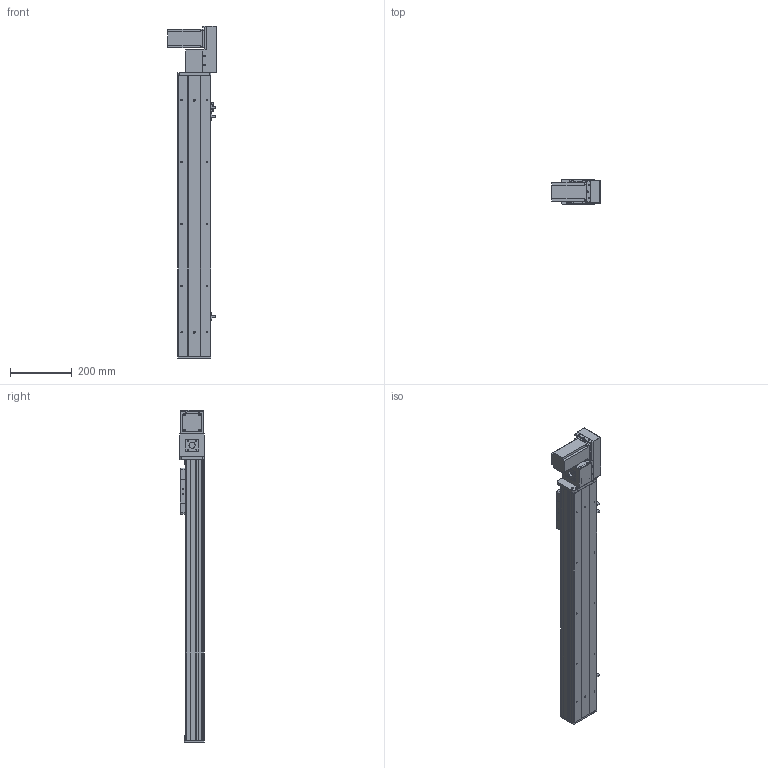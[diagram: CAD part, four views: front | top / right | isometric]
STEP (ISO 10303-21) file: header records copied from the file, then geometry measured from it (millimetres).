
FILE_DESCRIPTION (( 'STEP AP203' ), '1' );
FILE_NAME ('Y10CB-D90-S650-BR-P400W.STEP', '2020-02-16T01:40:54', ( '微软用户' ), ( '微软中国' ), 'SwSTEP 2.0', 'SolidWorks 2017', '' );
FILE_SCHEMA (( 'CONFIG_CONTROL_DESIGN' ));
Length unit declared in the file: millimetre
Products named in the file (18): Y10CB-D90-S650-BR-P400W; 10CB-詩湍-; 0Cb-俋欶---; Y10CB- 掛极耜裔啣-毀---; Y10B-々湍喘謫眊楊擘啣--; Y10C---詩湍揤啣; Y10B-耜蚾蟀諉啣----; 10CB9-掛极; 0B-萇儂楊擘啣; 10CB-耜裔; san松下电机400不带刹车----; Y135C-陔俋离換覜結え-; 0B-源倛裔啣; Y100-135俋离換覜ん--; 0B-埴倛裔啣; Y10B--々湍喘謫眊--666; Y俋欶BR----; 0CB-雄赽釱---
Assembly tree (21 placements, depth 2):
  Y10CB-D90-S650-BR-P400W
    0CB-雄赽釱---
    0Cb-俋欶---
    Y10B-々湍喘謫眊楊擘啣--
    Y10B-耜蚾蟀諉啣----
    0B-萇儂楊擘啣
    san松下电机400不带刹车----
    0B-源倛裔啣
    0B-埴倛裔啣
    Y俋欶BR----
    10CB-詩湍-
    Y10CB- 掛极耜裔啣-毀---  x2
    Y10C---詩湍揤啣  x2
    10CB9-掛极
    10CB-耜裔
    Y135C-陔俋离換覜結え-
    Y100-135俋离換覜ん--  x3
    Y10B--々湍喘謫眊--666
Bounding box: 157.5 x 80.5 x 1072.5 mm (x, y, z)
Volume: 2526077.1 mm3; surface area: 1104480.4 mm2
Topology: 21 solids, 21 shells, 966 faces, 2563 edges, 1682 vertices
Faces by surface type: plane 475, cylinder 467, cone 24
Entity records: 29904 total; most frequent: CARTESIAN_POINT 5173, DIRECTION 4858, ORIENTED_EDGE 4596, EDGE_CURVE 2298, AXIS2_PLACEMENT_3D 1737, VERTEX_POINT 1508, LINE 1384, VECTOR 1384
